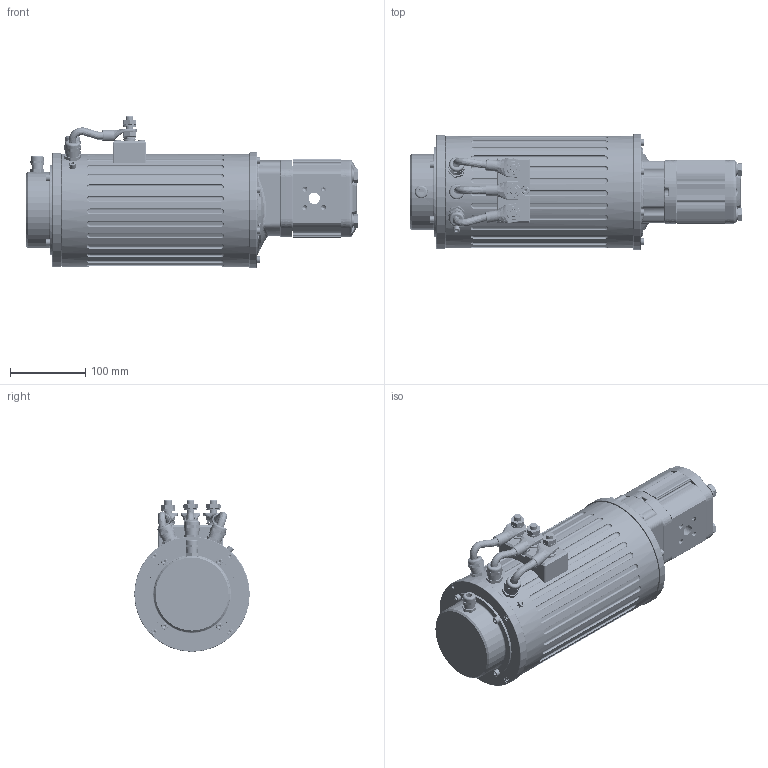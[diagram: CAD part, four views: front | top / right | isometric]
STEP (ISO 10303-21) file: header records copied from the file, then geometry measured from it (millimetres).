
FILE_DESCRIPTION(/* description */ (''),/* implementation_level */ '2;1');
FILE_NAME(/* name */ 'Z:\SITO WEB 2023\Elettropompe\Elettropompe PMAC\D.135 mm\BL135.GR2.stp',/* time_stamp */ '2023-09-19T12:19:02+02:00',/* author */ ('cad3'),/* organization */ (''),/* preprocessor_version */ 'ST-DEVELOPER v18.1',/* originating_system */ 'Autodesk Inventor 2022',/* authorisation */ '');
FILE_SCHEMA (('AUTOMOTIVE_DESIGN { 1 0 10303 214 3 1 1 }'));
Products named in the file (1): BL135.GR2
Bounding box: 441.2 x 153.5 x 201.56 mm (x, y, z)
Volume: 2029941.3 mm3; surface area: 555285.7 mm2
Topology: 2 solids, 37 shells, 6194 faces, 16583 edges, 10480 vertices
Faces by surface type: plane 4290, cylinder 873, cone 383, bspline 366, torus 274, sphere 8
Full cylindrical faces by diameter (mm): 3.242 x7, 4 x9, 4.134 x8, 4.48 x8, 4.917 x8, 5 x18, 5.2 x4, 5.3 x13, 5.5 x12, 6 x5, 6.3 x2, 6.5 x2, 8 x1, 8.376 x4, 8.5 x17, 8.6 x2, 9 x6, 9.5 x8, 9.8 x9, 10 x12, 10.2 x3, 10.5 x24, 11 x3, 12 x1, 14 x8, 14.63 x2, 15 x11, 15.6 x2, 16.376 x3, 17 x2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
Entity records: 218109 total; most frequent: CARTESIAN_POINT 55446, ORIENTED_EDGE 33042, DIRECTION 32633, EDGE_CURVE 16521, AXIS2_PLACEMENT_3D 11466, VERTEX_POINT 10480, LINE 9701, VECTOR 9701
